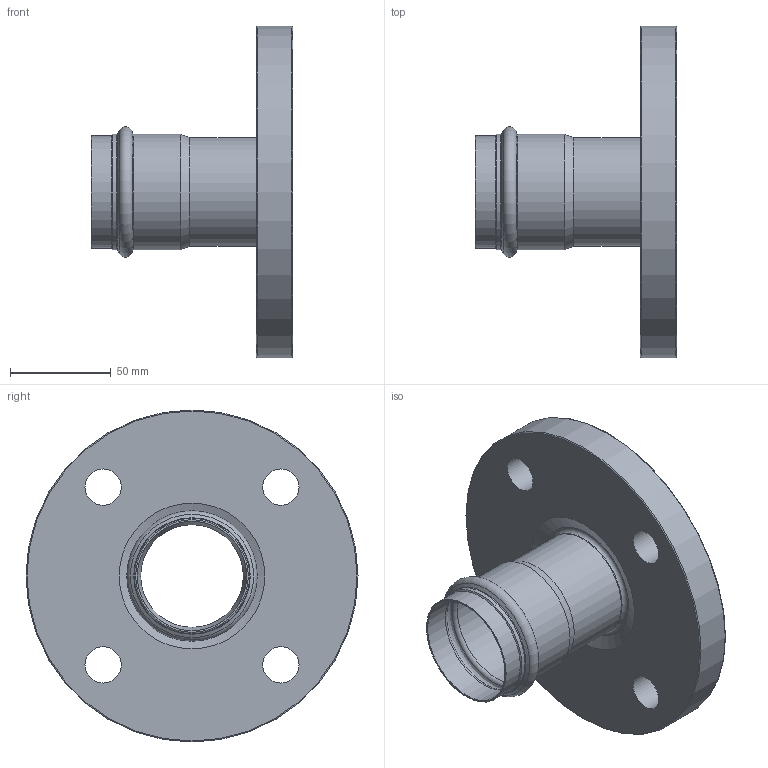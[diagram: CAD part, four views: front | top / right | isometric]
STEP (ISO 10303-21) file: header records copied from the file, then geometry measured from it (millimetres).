
FILE_DESCRIPTION((''),'2;1');
FILE_NAME('G:\Technics\CAD\Bauteile\054\6VAPF54(2).stp','2008-03-05T15:20:50',('herberg'),(''),'Autodesk Inventor 2008','Autodesk Inventor 2008','');
FILE_SCHEMA(('AUTOMOTIVE_DESIGN { 1 0 10303 214 1 1 1 1 }'));
Length unit declared in the file: millimetre
Products named in the file (3): 6VAPF54(2); 6VAPF54HM(1); Flansch54(2)
Assembly tree (2 placements, depth 2):
  6VAPF54(2)
    6VAPF54HM(1)
    Flansch54(2)
Bounding box: 100 x 165 x 165 mm (x, y, z)
Volume: 348183.2 mm3; surface area: 83241.9 mm2
Topology: 2 solids, 2 shells, 34 faces, 67 edges, 38 vertices
Faces by surface type: cylinder 14, torus 6, cone 6, plane 5, bspline 3
Full cylindrical faces by diameter (mm): 18 x4, 51 x2, 54 x2, 54.35 x2, 55.95 x1, 57.35 x2, 165 x1
Entity records: 986 total; most frequent: CARTESIAN_POINT 283, DIRECTION 148, ORIENTED_EDGE 76, EDGE_LOOP 76, AXIS2_PLACEMENT_3D 74, FACE_BOUND 42, VERTEX_POINT 38, CIRCLE 38
